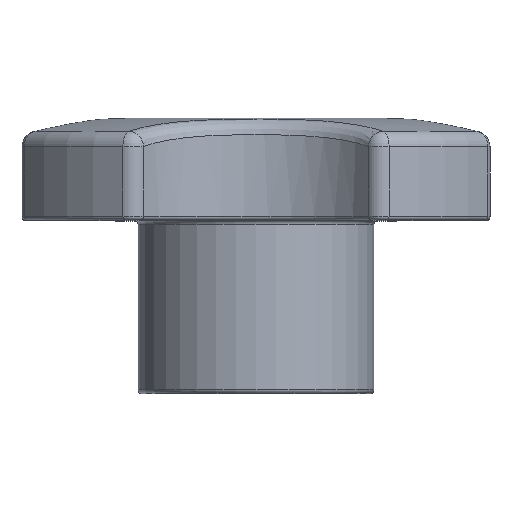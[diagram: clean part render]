
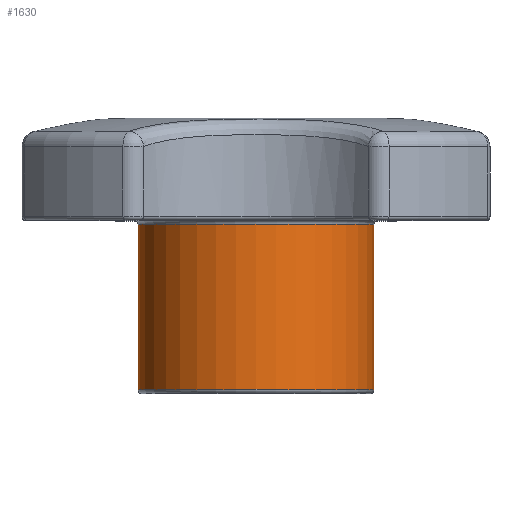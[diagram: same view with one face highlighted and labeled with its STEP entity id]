
A CAD part, top view. The second image highlights one B-rep face of the part: STEP entity #1630.
In plain terms, the highlighted cylindrical face has radius 15 mm (diameter 30 mm), a partial arc.
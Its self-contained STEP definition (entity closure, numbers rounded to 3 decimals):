
#73 = FACE_OUTER_BOUND ( 'NONE', #689, .T. ) ;
#93 = CYLINDRICAL_SURFACE ( 'NONE', #1537, 15. ) ;
#188 = EDGE_CURVE ( 'NONE', #1427, #737, #2227, .T. ) ;
#255 = EDGE_CURVE ( 'NONE', #1438, #1427, #2096, .T. ) ;
#279 = EDGE_CURVE ( 'NONE', #1437, #737, #2065, .T. ) ;
#293 = EDGE_CURVE ( 'NONE', #1437, #1438, #2145, .T. ) ;
#422 = DIRECTION ( 'NONE',  ( 0., 1., 0. ) ) ;
#423 = CARTESIAN_POINT ( 'NONE',  ( 15., 0., 0. ) ) ;
#667 = CARTESIAN_POINT ( 'NONE',  ( 0., 21.5, 0. ) ) ;
#668 = DIRECTION ( 'NONE',  ( 0., -1., 0. ) ) ;
#669 = DIRECTION ( 'NONE',  ( 1., 0., 0. ) ) ;
#689 = EDGE_LOOP ( 'NONE', ( #1362, #1735, #1317, #1335 ) ) ;
#737 = VERTEX_POINT ( 'NONE', #1212 ) ;
#772 = CARTESIAN_POINT ( 'NONE',  ( -15., 0.5, 0. ) ) ;
#774 = CARTESIAN_POINT ( 'NONE',  ( 15., 0.5, 0. ) ) ;
#795 = CARTESIAN_POINT ( 'NONE',  ( -15., 0., 0. ) ) ;
#806 = DIRECTION ( 'NONE',  ( 0., 1., 0. ) ) ;
#1053 = CARTESIAN_POINT ( 'NONE',  ( 0., 0.5, 0. ) ) ;
#1054 = DIRECTION ( 'NONE',  ( 0., 1., 0. ) ) ;
#1055 = DIRECTION ( 'NONE',  ( 1., 0., 0. ) ) ;
#1212 = CARTESIAN_POINT ( 'NONE',  ( -15., 21.5, 0. ) ) ;
#1243 = CARTESIAN_POINT ( 'NONE',  ( 15., 21.5, 0. ) ) ;
#1317 = ORIENTED_EDGE ( 'NONE', *, *, #188, .T. ) ;
#1335 = ORIENTED_EDGE ( 'NONE', *, *, #279, .F. ) ;
#1362 = ORIENTED_EDGE ( 'NONE', *, *, #293, .T. ) ;
#1427 = VERTEX_POINT ( 'NONE', #1243 ) ;
#1437 = VERTEX_POINT ( 'NONE', #772 ) ;
#1438 = VERTEX_POINT ( 'NONE', #774 ) ;
#1459 = AXIS2_PLACEMENT_3D ( 'NONE', #1053, #1054, #1055 ) ;
#1537 = AXIS2_PLACEMENT_3D ( 'NONE', #2320, #2318, #2315 ) ;
#1630 = ADVANCED_FACE ( 'NONE', ( #73 ), #93, .T. ) ;
#1735 = ORIENTED_EDGE ( 'NONE', *, *, #255, .T. ) ;
#1881 = AXIS2_PLACEMENT_3D ( 'NONE', #667, #668, #669 ) ;
#2065 = LINE ( 'NONE', #795, #2137 ) ;
#2096 = LINE ( 'NONE', #423, #2098 ) ;
#2098 = VECTOR ( 'NONE', #422, 1000. ) ;
#2137 = VECTOR ( 'NONE', #806, 1000. ) ;
#2145 = CIRCLE ( 'NONE', #1459, 15. ) ;
#2227 = CIRCLE ( 'NONE', #1881, 15. ) ;
#2315 = DIRECTION ( 'NONE',  ( -1., 0., 0. ) ) ;
#2318 = DIRECTION ( 'NONE',  ( 0., 1., 0. ) ) ;
#2320 = CARTESIAN_POINT ( 'NONE',  ( 0., 0., 0. ) ) ;
